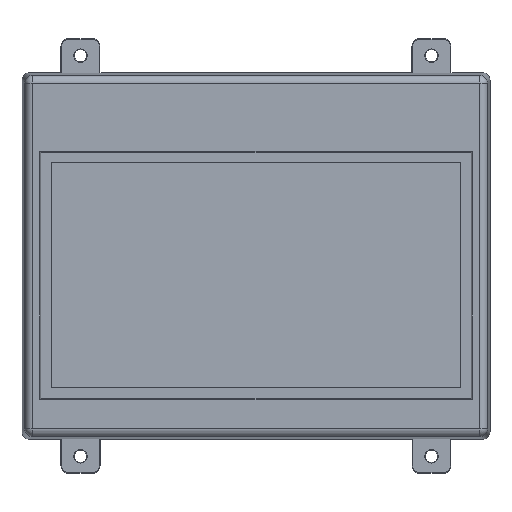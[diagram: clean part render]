
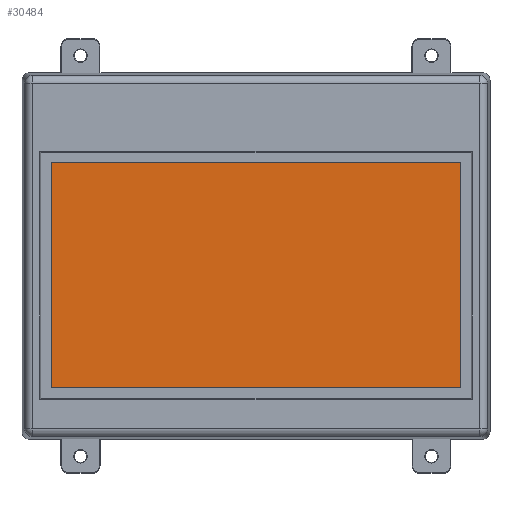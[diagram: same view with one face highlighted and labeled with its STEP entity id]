
A CAD part, front view. The second image highlights one B-rep face of the part: STEP entity #30484.
In plain terms, the highlighted planar face has unit normal (0, -1, 0) as drawn and (0, 0, -1) by its records, which use the part's own axes.
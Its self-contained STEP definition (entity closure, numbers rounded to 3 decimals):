
#15010=VECTOR('',#42477,1.);
#15014=VECTOR('',#42482,1.);
#15017=VECTOR('',#42486,1.);
#15020=VECTOR('',#42490,1.);
#17071=LINE('',#37242,#15010);
#17075=LINE('',#37251,#15014);
#17078=LINE('',#37257,#15017);
#17081=LINE('',#37263,#15020);
#17898=PLANE('',#31822);
#19442=VERTEX_POINT('',#37243);
#19443=VERTEX_POINT('',#37244);
#19446=VERTEX_POINT('',#37252);
#19448=VERTEX_POINT('',#37258);
#22102=EDGE_CURVE('',#19442,#19443,#17071,.T.);
#22106=EDGE_CURVE('',#19443,#19446,#17075,.T.);
#22109=EDGE_CURVE('',#19446,#19448,#17078,.T.);
#22112=EDGE_CURVE('',#19448,#19442,#17081,.T.);
#26865=ORIENTED_EDGE('',*,*,#22112,.F.);
#26866=ORIENTED_EDGE('',*,*,#22109,.F.);
#26867=ORIENTED_EDGE('',*,*,#22106,.F.);
#26868=ORIENTED_EDGE('',*,*,#22102,.F.);
#28429=EDGE_LOOP('',(#26865,#26866,#26867,#26868));
#29519=FACE_BOUND('',#28429,.T.);
#30484=ADVANCED_FACE('',(#29519),#17898,.T.);
#31822=AXIS2_PLACEMENT_3D('',#37265,#42492,$);
#37242=CARTESIAN_POINT('',(-34.798,-19.812,0.));
#37243=CARTESIAN_POINT('',(-34.798,-19.812,0.));
#37244=CARTESIAN_POINT('',(34.798,-19.812,0.));
#37251=CARTESIAN_POINT('',(34.798,-19.812,0.));
#37252=CARTESIAN_POINT('',(34.798,19.812,0.));
#37257=CARTESIAN_POINT('',(34.798,19.812,0.));
#37258=CARTESIAN_POINT('',(-34.798,19.812,0.));
#37263=CARTESIAN_POINT('',(-34.798,19.812,0.));
#37265=CARTESIAN_POINT('',(-34.798,-19.812,0.));
#42477=DIRECTION('',(1.,0.,0.));
#42482=DIRECTION('',(0.,1.,0.));
#42486=DIRECTION('',(-1.,0.,0.));
#42490=DIRECTION('',(0.,-1.,0.));
#42492=DIRECTION('',(0.,0.,-1.));
